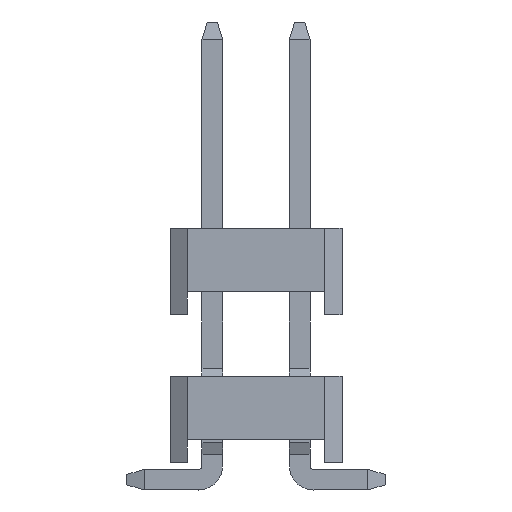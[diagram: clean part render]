
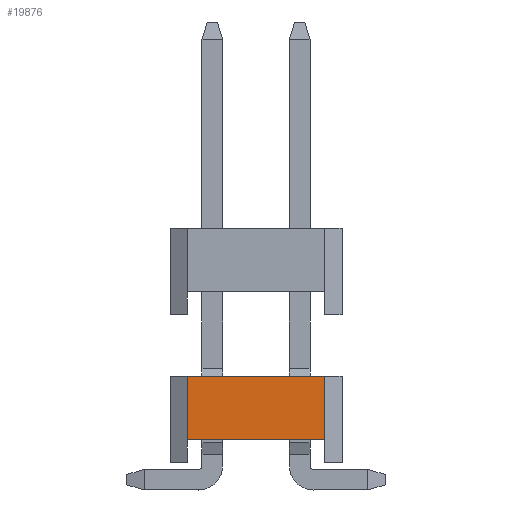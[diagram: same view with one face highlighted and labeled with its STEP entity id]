
A CAD part, left-side view. The second image highlights one B-rep face of the part: STEP entity #19876.
In plain terms, the highlighted planar face has unit normal (-1, 0, 0).
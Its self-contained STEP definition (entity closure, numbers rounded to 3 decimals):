
#161 = VERTEX_POINT ( 'NONE', #11660 ) ;
#206 = CARTESIAN_POINT ( 'NONE',  ( -4.313, 3.027, -10.931 ) ) ;
#232 = VERTEX_POINT ( 'NONE', #15174 ) ;
#369 = LINE ( 'NONE', #206, #14349 ) ;
#1782 = CARTESIAN_POINT ( 'NONE',  ( -4.313, 3.028, -9.091 ) ) ;
#2001 = VECTOR ( 'NONE', #26791, 1000. ) ;
#2601 = VERTEX_POINT ( 'NONE', #14604 ) ;
#2994 = EDGE_LOOP ( 'NONE', ( #10792, #12142, #29532, #16400, #23728, #24215 ) ) ;
#6609 = CARTESIAN_POINT ( 'NONE',  ( -4.313, 1.028, -10.341 ) ) ;
#6840 = EDGE_CURVE ( 'NONE', #161, #2601, #13564, .T. ) ;
#7284 = VECTOR ( 'NONE', #14032, 1000. ) ;
#8420 = LINE ( 'NONE', #18274, #22320 ) ;
#9078 = EDGE_CURVE ( 'NONE', #16642, #26681, #8420, .T. ) ;
#10792 = ORIENTED_EDGE ( 'NONE', *, *, #28166, .T. ) ;
#10907 = EDGE_CURVE ( 'NONE', #16469, #232, #18239, .T. ) ;
#10996 = DIRECTION ( 'NONE',  ( 0., 0., -1. ) ) ;
#11238 = LINE ( 'NONE', #25933, #13581 ) ;
#11660 = CARTESIAN_POINT ( 'NONE',  ( -4.313, 1.028, -11.591 ) ) ;
#12142 = ORIENTED_EDGE ( 'NONE', *, *, #10907, .T. ) ;
#12319 = CARTESIAN_POINT ( 'NONE',  ( -4.313, 5.026, -11.591 ) ) ;
#13564 = LINE ( 'NONE', #6609, #23877 ) ;
#13581 = VECTOR ( 'NONE', #21091, 1000. ) ;
#14032 = DIRECTION ( 'NONE',  ( 0., 0., -1. ) ) ;
#14349 = VECTOR ( 'NONE', #24900, 1000. ) ;
#14604 = CARTESIAN_POINT ( 'NONE',  ( -4.313, 1.028, -9.091 ) ) ;
#15174 = CARTESIAN_POINT ( 'NONE',  ( -4.313, 1.032, -11.591 ) ) ;
#15325 = EDGE_CURVE ( 'NONE', #232, #161, #11238, .T. ) ;
#15823 = CARTESIAN_POINT ( 'NONE',  ( -4.313, 1.032, -11.261 ) ) ;
#16400 = ORIENTED_EDGE ( 'NONE', *, *, #6840, .T. ) ;
#16469 = VERTEX_POINT ( 'NONE', #28844 ) ;
#16642 = VERTEX_POINT ( 'NONE', #17071 ) ;
#17071 = CARTESIAN_POINT ( 'NONE',  ( -4.313, 5.026, -9.091 ) ) ;
#17478 = DIRECTION ( 'NONE',  ( -1., 0., 0. ) ) ;
#18239 = LINE ( 'NONE', #15823, #7284 ) ;
#18274 = CARTESIAN_POINT ( 'NONE',  ( -4.313, 5.026, -10.341 ) ) ;
#18892 = LINE ( 'NONE', #1782, #2001 ) ;
#19876 = ADVANCED_FACE ( 'NONE', ( #29885 ), #22636, .T. ) ;
#20909 = CARTESIAN_POINT ( 'NONE',  ( -4.313, 5.026, -10.931 ) ) ;
#21091 = DIRECTION ( 'NONE',  ( 0., -1., 0. ) ) ;
#21360 = EDGE_CURVE ( 'NONE', #2601, #16642, #18892, .T. ) ;
#21446 = DIRECTION ( 'NONE',  ( 0., 0., 1. ) ) ;
#22320 = VECTOR ( 'NONE', #10996, 1000. ) ;
#22636 = PLANE ( 'NONE',  #29251 ) ;
#23728 = ORIENTED_EDGE ( 'NONE', *, *, #21360, .T. ) ;
#23877 = VECTOR ( 'NONE', #21446, 1000. ) ;
#24215 = ORIENTED_EDGE ( 'NONE', *, *, #9078, .T. ) ;
#24577 = DIRECTION ( 'NONE',  ( 0., 0., 1. ) ) ;
#24900 = DIRECTION ( 'NONE',  ( 0., -1., 0. ) ) ;
#25933 = CARTESIAN_POINT ( 'NONE',  ( -4.313, 0.781, -11.591 ) ) ;
#26681 = VERTEX_POINT ( 'NONE', #20909 ) ;
#26791 = DIRECTION ( 'NONE',  ( 0., 1., 0. ) ) ;
#28166 = EDGE_CURVE ( 'NONE', #26681, #16469, #369, .T. ) ;
#28844 = CARTESIAN_POINT ( 'NONE',  ( -4.313, 1.032, -10.931 ) ) ;
#29251 = AXIS2_PLACEMENT_3D ( 'NONE', #12319, #17478, #24577 ) ;
#29532 = ORIENTED_EDGE ( 'NONE', *, *, #15325, .T. ) ;
#29885 = FACE_OUTER_BOUND ( 'NONE', #2994, .T. ) ;
